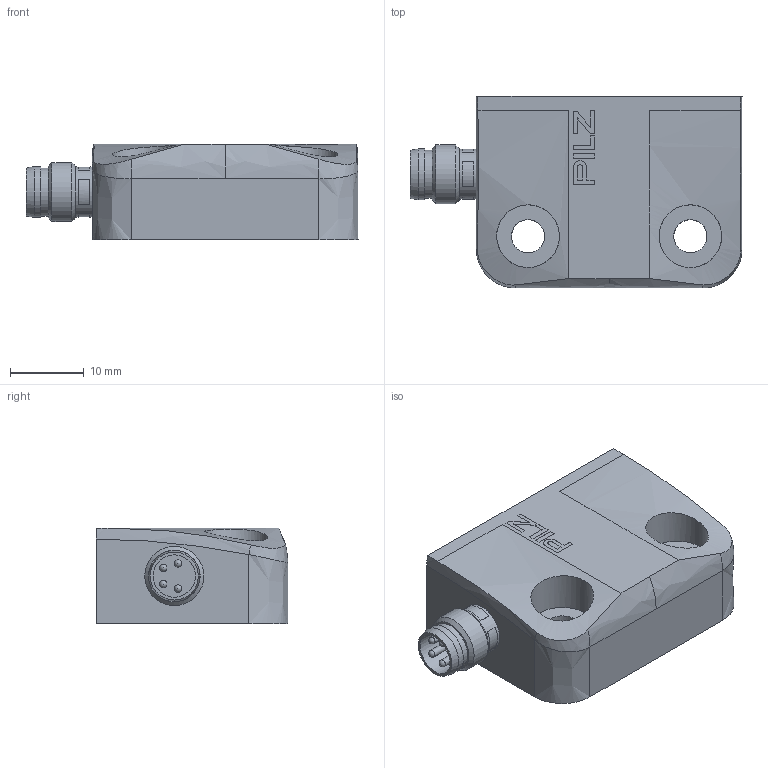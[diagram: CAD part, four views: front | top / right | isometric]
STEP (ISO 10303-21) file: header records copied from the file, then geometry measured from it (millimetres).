
FILE_DESCRIPTION(/* description */ (''),/* implementation_level */ '2;1');
FILE_NAME(/* name */ 'D:\_Vault\Workspace\Projektordner\Sensoren\Magnetschalter\PSEN 1.1_2.1\Kundendaten/2025883_A_PSEN_X_1p_LED_switch.stp',/* time_stamp */ '2018-02-21T09:14:29+01:00',/* author */ ('prim'),/* organization */ (''),/* preprocessor_version */ 'ST-DEVELOPER v16.5',/* originating_system */ 'Autodesk Inventor 2017',/* authorisation */ '');
FILE_SCHEMA (('AUTOMOTIVE_DESIGN { 1 0 10303 214 3 1 1 }'));
Length unit declared in the file: millimetre
Products named in the file (1): 2025883
Bounding box: 45 x 26 x 13.01 mm (x, y, z)
Volume: 10943.3 mm3; surface area: 4097.8 mm2
Topology: 1 solids, 1 shells, 110 faces, 304 edges, 213 vertices
Faces by surface type: plane 72, cylinder 17, bspline 12, cone 5, sphere 4
Full cylindrical faces by diameter (mm): 1 x4, 5.75 x1, 6.5 x1, 6.8 x1, 6.9 x1, 8 x1, 8.5 x2
Entity records: 5600 total; most frequent: CARTESIAN_POINT 2952, ORIENTED_EDGE 538, DIRECTION 479, EDGE_CURVE 269, VERTEX_POINT 197, LINE 183, VECTOR 183, EDGE_LOOP 150
